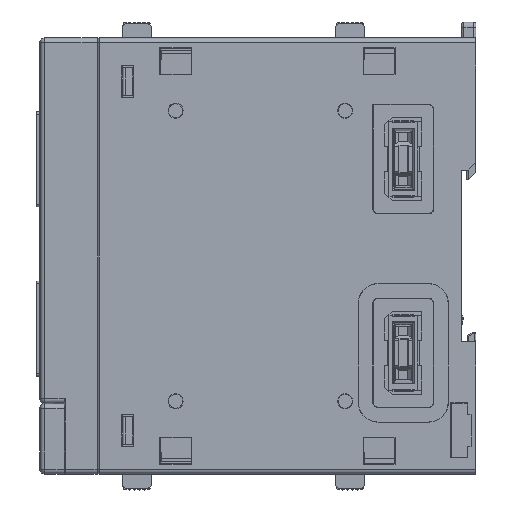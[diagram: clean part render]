
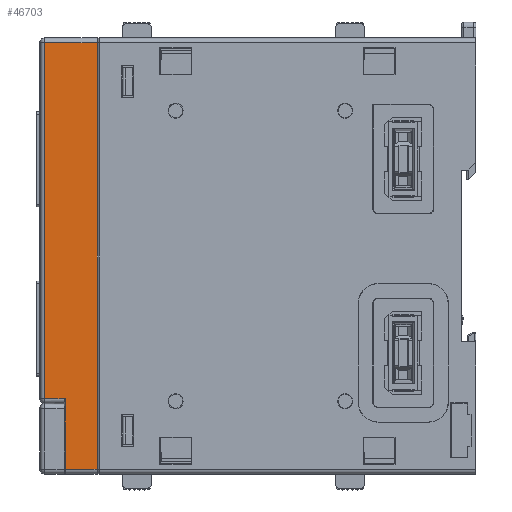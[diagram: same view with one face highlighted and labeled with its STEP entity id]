
A CAD part, left-side view. The second image highlights one B-rep face of the part: STEP entity #46703.
In plain terms, the highlighted planar face has unit normal (-1, 0, 0).
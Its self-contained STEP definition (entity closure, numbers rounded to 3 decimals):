
#6161=DIRECTION('',(0.,-1.,0.));
#6162=VECTOR('',#6161,4.2);
#6163=CARTESIAN_POINT('',(-13.3,89.,-29.5));
#6164=LINE('',#6163,#6162);
#6377=DIRECTION('',(0.,0.,-1.));
#6378=VECTOR('',#6377,88.);
#6379=CARTESIAN_POINT('',(-13.3,78.2,44.));
#6380=LINE('',#6379,#6378);
#6381=DIRECTION('',(0.,-1.,0.));
#6382=VECTOR('',#6381,6.6);
#6383=CARTESIAN_POINT('',(-13.3,84.8,-44.));
#6384=LINE('',#6383,#6382);
#6385=DIRECTION('',(0.,0.,1.));
#6386=VECTOR('',#6385,14.5);
#6387=CARTESIAN_POINT('',(-13.3,84.8,-44.));
#6388=LINE('',#6387,#6386);
#6389=DIRECTION('',(0.,0.,1.));
#6390=VECTOR('',#6389,73.5);
#6391=CARTESIAN_POINT('',(-13.3,89.,-29.5));
#6392=LINE('',#6391,#6390);
#6393=DIRECTION('',(0.,-1.,0.));
#6394=VECTOR('',#6393,10.8);
#6395=CARTESIAN_POINT('',(-13.3,89.,44.));
#6396=LINE('',#6395,#6394);
#30426=CARTESIAN_POINT('',(-13.3,89.,44.));
#30428=VERTEX_POINT('',#30426);
#30438=CARTESIAN_POINT('',(-13.3,89.,-29.5));
#30440=VERTEX_POINT('',#30438);
#30591=CARTESIAN_POINT('',(-13.3,78.2,44.));
#30593=VERTEX_POINT('',#30591);
#30594=CARTESIAN_POINT('',(-13.3,78.2,-44.));
#30595=VERTEX_POINT('',#30594);
#30606=CARTESIAN_POINT('',(-13.3,84.8,-44.));
#30607=CARTESIAN_POINT('',(-13.3,84.8,-29.5));
#30608=VERTEX_POINT('',#30606);
#30609=VERTEX_POINT('',#30607);
#46689=CARTESIAN_POINT('',(-13.3,78.,-45.));
#46690=DIRECTION('',(-1.,0.,0.));
#46691=DIRECTION('',(0.,0.,1.));
#46692=AXIS2_PLACEMENT_3D('',#46689,#46690,#46691);
#46693=PLANE('',#46692);
#46695=ORIENTED_EDGE('',*,*,#46694,.T.);
#46696=ORIENTED_EDGE('',*,*,#46064,.F.);
#46697=ORIENTED_EDGE('',*,*,#46443,.T.);
#46698=ORIENTED_EDGE('',*,*,#46384,.F.);
#46699=ORIENTED_EDGE('',*,*,#46359,.T.);
#46700=ORIENTED_EDGE('',*,*,#43908,.T.);
#46701=EDGE_LOOP('',(#46695,#46696,#46697,#46698,#46699,#46700));
#46702=FACE_OUTER_BOUND('',#46701,.F.);
#46703=ADVANCED_FACE('',(#46702),#46693,.T.);
#43908=EDGE_CURVE('',#30428,#30593,#6396,.T.);
#46064=EDGE_CURVE('',#30608,#30595,#6384,.T.);
#46359=EDGE_CURVE('',#30440,#30428,#6392,.T.);
#46384=EDGE_CURVE('',#30440,#30609,#6164,.T.);
#46443=EDGE_CURVE('',#30608,#30609,#6388,.T.);
#46694=EDGE_CURVE('',#30593,#30595,#6380,.T.);
